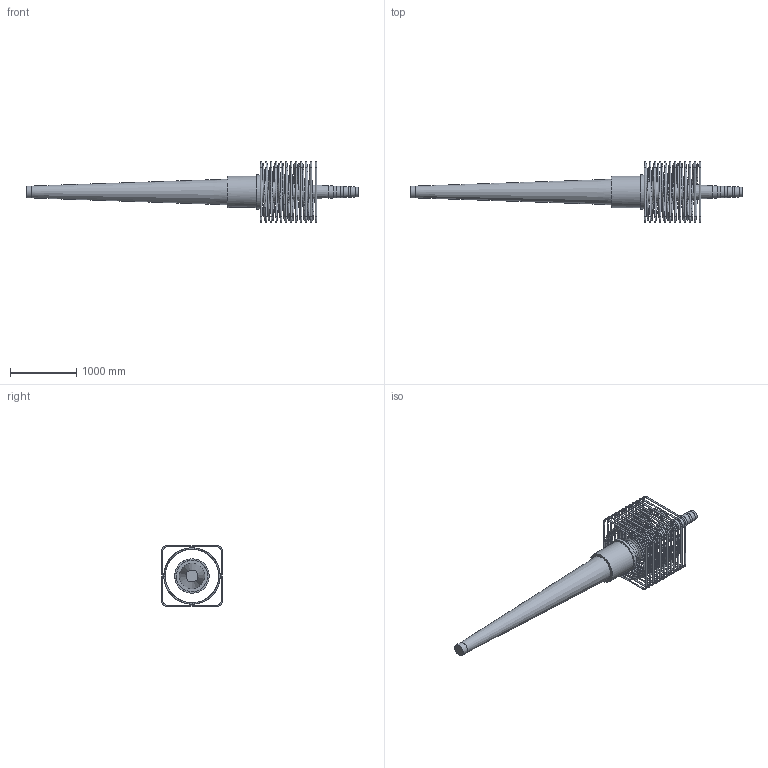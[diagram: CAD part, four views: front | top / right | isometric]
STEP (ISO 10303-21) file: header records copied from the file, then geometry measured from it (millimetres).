
FILE_DESCRIPTION(/* description */ (''),/* implementation_level */ '2;1');
FILE_NAME(/* name */ 'Z:\04 Publications\05 Give-out\BBR\6_3D_Models\BBR VT CONA CMI\BBR VT CONA CMI BT\06106\BBR VT CONA CMI BT 6106_Coupler H Assembly_CS-34,28.stp',/* time_stamp */ '2017-05-18T14:15:10+02:00',/* author */ ('IP'),/* organization */ (''),/* preprocessor_version */ 'ST-DEVELOPER v16.1',/* originating_system */ 'Autodesk Inventor 2016',/* authorisation */ '');
FILE_SCHEMA (('AUTOMOTIVE_DESIGN { 1 0 10303 214 3 1 1 }'));
Length unit declared in the file: millimetre
Products named in the file (1): BBR VT CONA CMI BT 6106_Coupler H Assembly_CS-34,28
Bounding box: 5015.56 x 920 x 920 mm (x, y, z)
Volume: 377332022.6 mm3; surface area: 9872672.2 mm2
Topology: 14 solids, 14 shells, 911 faces, 2335 edges, 1495 vertices
Faces by surface type: bspline 374, plane 301, cylinder 134, torus 81, cone 11, sphere 10
Full cylindrical faces by diameter (mm): 20 x48, 34 x1, 57 x1, 148.968 x1, 158.968 x1, 168.968 x1, 178.968 x1, 180 x1, 305 x1, 408 x1, 418 x1, 475 x1, 520 x1
Entity records: 40437 total; most frequent: CARTESIAN_POINT 20767, ORIENTED_EDGE 4362, DIRECTION 3049, EDGE_CURVE 2181, VERTEX_POINT 1486, EDGE_LOOP 1125, AXIS2_PLACEMENT_3D 1069, LINE 911
